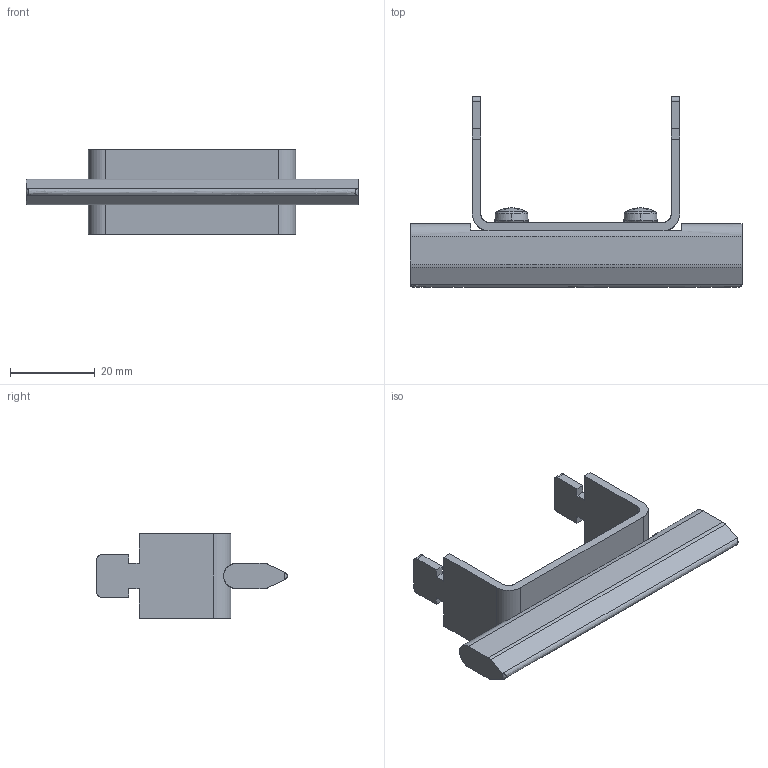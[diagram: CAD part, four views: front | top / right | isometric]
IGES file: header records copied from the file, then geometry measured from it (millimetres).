
Start section: SolidWorks IGES file using analytic representation for surfaces
Global section: file name: U:\14_RD\05_Technical_office\04_Office\Hrdinova\3D modely - IGES\Varius - Ostatní\ZP000.IGS; native system: SolidWorks 2011; preprocessor: SolidWorks 2011; author: adhrja3; date: 170621.073111; units: millimetre
Bounding box: 78.5 x 45 x 20 mm (x, y, z)
Surface area: 7930.9 mm2 (no closed solid volume)
Topology: 0 solids, 0 shells, 145 faces, 1477 edges, 1469 vertices
Faces by surface type: bspline 97, revolution 48
